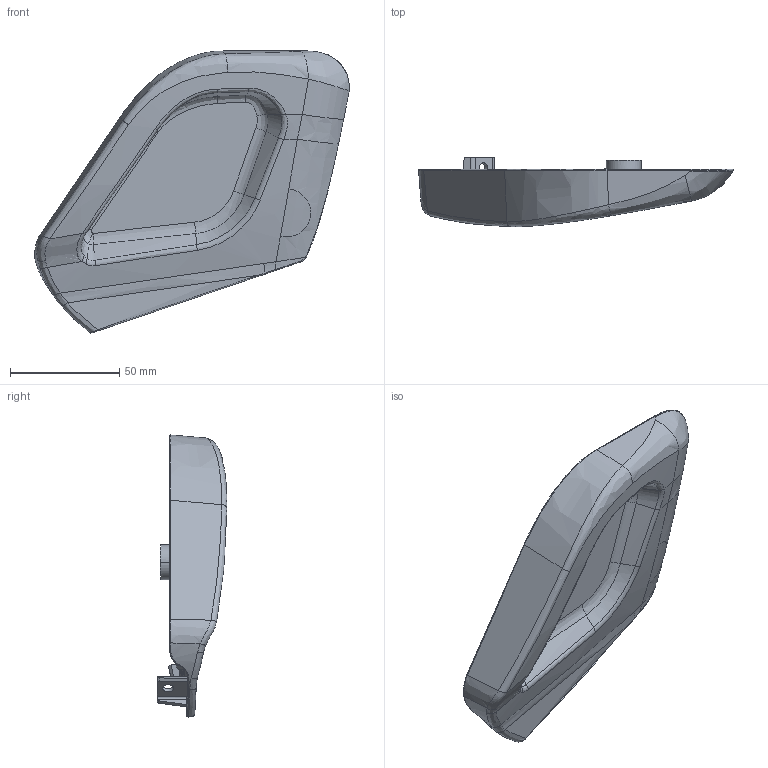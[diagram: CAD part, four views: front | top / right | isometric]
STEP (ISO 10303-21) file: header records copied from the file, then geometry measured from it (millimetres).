
FILE_DESCRIPTION(('CATIA V5 STEP Exchange','CAx-IF Rec.Pracs.--- Model Styling and Organization---1.4--- 2014-01-23'),'2;1');
FILE_NAME('C:\Users\luhaitao\Desktop\塑料件平台项目\塑料件样件清单\03.stp','2025-04-28T01:02:22+00:00',('none'),('none'),'CATIA Version 5-6 Release 2017','CATIA V5 STEP AP214','none');
FILE_SCHEMA(('AUTOMOTIVE_DESIGN { 1 0 10303 214 1 1 1 1 }'));
Products named in the file (1): 03
Bounding box: 144.09 x 31.9 x 129.06 mm (x, y, z)
Volume: 60098.5 mm3; surface area: 43429.1 mm2
Topology: 1 solids, 1 shells, 268 faces, 801 edges, 532 vertices
Faces by surface type: bspline 192, plane 61, cylinder 14, sphere 1
Entity records: 33292 total; most frequent: CARTESIAN_POINT 28120, ORIENTED_EDGE 1586, EDGE_CURVE 793, B_SPLINE_CURVE_WITH_KNOTS 596, VERTEX_POINT 528, EDGE_LOOP 271, ADVANCED_FACE 268, FACE_OUTER_BOUND 268
